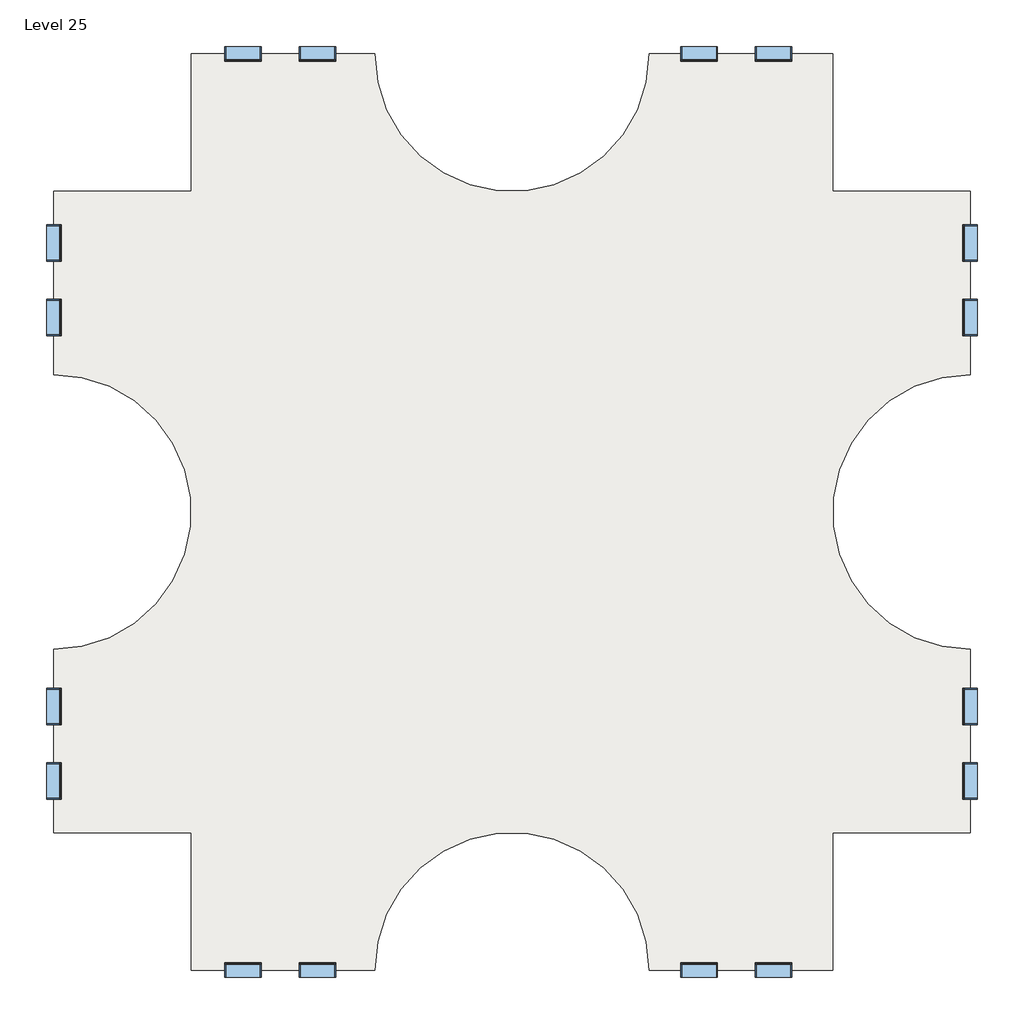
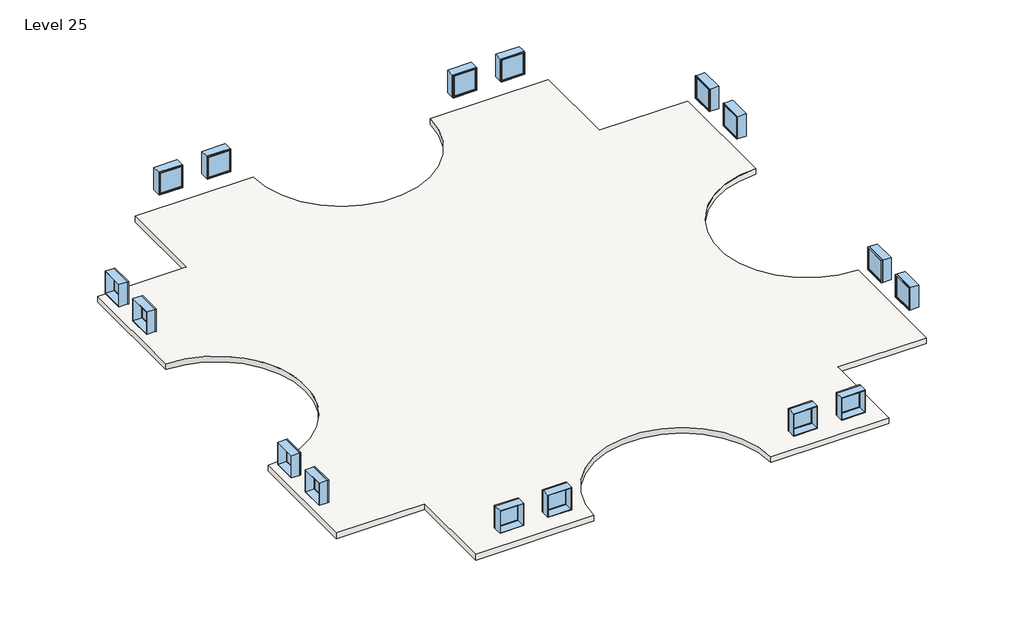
# One storey: 16 windows, 3 slabs.
"""IFC4 building model written with IfcOpenShell, lengths in millimetres."""

import ifcopenshell
import ifcopenshell.guid

model = None  # the IFC model being written
_history = None  # IfcOwnerHistory: only IFC2X3 demands one
_inside = {}  # id of a spatial element -> (the spatial element, [elements in it])
_under = {}  # id of a project, library or spatial element -> (it, [spatial elements below it])
_declared = {}  # id of a project -> (the project, [libraries it declares])
_typed = {}  # id of a type object -> (the type object, [elements of that type])
_made_of = {}  # id of a material, layer set ... -> (it, [elements and type objects made of it])


def new_model(schema):
    """Start an empty IFC model of exactly this schema.

    Asked for "IFC4X3", IfcOpenShell would pick the latest addendum, in which some entities
    have other attributes; the version numbers below select the first issue.
    IFC2X3 requires an IfcOwnerHistory on every rooted entity: one is made here for all.
    """
    global model, _history
    if schema == "IFC4X3":
        model = ifcopenshell.file(schema_version=(4, 3, 0, 0))
    else:
        model = ifcopenshell.file(schema=schema)
    _inside.clear()
    _under.clear()
    _declared.clear()
    _typed.clear()
    _made_of.clear()
    _history = None
    if model.schema == "IFC2X3":
        org = make("IfcOrganization", Name="unknown")
        user = make(
            "IfcPersonAndOrganization",
            ThePerson=make("IfcPerson", FamilyName="unknown"),
            TheOrganization=org,
        )
        app = make(
            "IfcApplication",
            ApplicationDeveloper=org,
            Version="unknown",
            ApplicationFullName="unknown",
            ApplicationIdentifier="unknown",
        )
        _history = make(
            "IfcOwnerHistory",
            OwningUser=user,
            OwningApplication=app,
            ChangeAction="ADDED",
            CreationDate=0,
        )
    return model


def make(cls, **values):
    """One entity of the class cls with the attributes given. An attribute that is None is left unset."""
    return model.create_entity(
        cls, **{name: value for name, value in values.items() if value is not None}
    )


def rooted(cls, **values):
    """An entity with a GlobalId (a new one), such as an element, a storey or a relation."""
    return make(cls, GlobalId=ifcopenshell.guid.new(), OwnerHistory=_history, **values)


def si_unit(unit_type, name, prefix=None):
    """IfcSIUnit, for example si_unit("LENGTHUNIT", "METRE", prefix="MILLI")."""
    return make("IfcSIUnit", UnitType=unit_type, Prefix=prefix, Name=name)


def assignment(units):
    """IfcUnitAssignment: the units of a project."""
    return None if units is None else make("IfcUnitAssignment", Units=units)


def point(xyz):
    """IfcCartesianPoint."""
    return None if xyz is None else make("IfcCartesianPoint", Coordinates=xyz)


def direction(xyz):
    """IfcDirection."""
    return None if xyz is None else make("IfcDirection", DirectionRatios=xyz)


def frame(location, z_axis=None, x_axis=None):
    """IfcAxis2Placement3D, a coordinate frame: its origin and axes. An axis left out is left unset."""
    return make(
        "IfcAxis2Placement3D",
        Location=point(location),
        Axis=direction(z_axis),
        RefDirection=direction(x_axis),
    )


def frame_2d(location, x_axis=None):
    """IfcAxis2Placement2D, a coordinate frame in the plane: its origin and x axis."""
    return make(
        "IfcAxis2Placement2D", Location=point(location), RefDirection=direction(x_axis)
    )


def origin():
    """The frame at (0, 0, 0) with its axes left unset."""
    return frame((0.0, 0.0, 0.0))


def place(relative_to, where):
    """IfcLocalPlacement: puts the frame where relative to a parent placement (None: the world)."""
    return make(
        "IfcLocalPlacement", PlacementRelTo=relative_to, RelativePlacement=where
    )


def context(
    kind, dimensions, precision=None, world=None, true_north=None, identifier=None
):
    """IfcGeometricRepresentationContext, for example the 3D "Model" context."""
    return make(
        "IfcGeometricRepresentationContext",
        ContextIdentifier=identifier,
        ContextType=kind,
        CoordinateSpaceDimension=dimensions,
        Precision=precision,
        WorldCoordinateSystem=world,
        TrueNorth=true_north,
    )


def project(units=None, contexts=None):
    """IfcProject with its units and contexts."""
    return rooted(
        "IfcProject",
        Name="project",
        RepresentationContexts=contexts,
        UnitsInContext=assignment(units),
    )


def spatial(cls, under=None, at=None, **own):
    """A site, building, storey or space (cls), placed at a placement, below another one or the project."""
    s = rooted(cls, ObjectPlacement=at, **own)
    if under is not None:
        _under.setdefault(under.id(), (under, []))[1].append(s)
    return s


def polyline(points):
    """IfcPolyline through the points."""
    return make("IfcPolyline", Points=[point(p) for p in points])


def circle_curve(where, radius):
    """IfcCircle in the frame where."""
    return make("IfcCircle", Position=where, Radius=radius)


def trimmed(basis, trim1, trim2, sense, master):
    """IfcTrimmedCurve: the piece of a basis curve between two trims."""
    return make(
        "IfcTrimmedCurve",
        BasisCurve=basis,
        Trim1=trim1,
        Trim2=trim2,
        SenseAgreement=sense,
        MasterRepresentation=master,
    )


def segment(curve, same_sense, transition):
    """IfcCompositeCurveSegment."""
    return make(
        "IfcCompositeCurveSegment",
        Transition=transition,
        SameSense=same_sense,
        ParentCurve=curve,
    )


def composite_curve(segments, self_intersect=None):
    """IfcCompositeCurve: segments joined end to end."""
    return make("IfcCompositeCurve", Segments=segments, SelfIntersect=self_intersect)


def outline(outer, holes=None, kind="AREA"):
    """IfcArbitraryClosedProfileDef: a profile drawn as a closed curve; with holes, ...WithVoids."""
    if holes is None:
        return make("IfcArbitraryClosedProfileDef", ProfileType=kind, OuterCurve=outer)
    return make(
        "IfcArbitraryProfileDefWithVoids",
        ProfileType=kind,
        OuterCurve=outer,
        InnerCurves=holes,
    )


def extrude(swept, where, along, depth):
    """IfcExtrudedAreaSolid: the profile swept, set in the frame where, extruded along a direction by depth."""
    return make(
        "IfcExtrudedAreaSolid",
        SweptArea=swept,
        Position=where,
        ExtrudedDirection=direction(along),
        Depth=depth,
    )


def shape(context_of_items, identifier, shape_type, items):
    """IfcShapeRepresentation: the items that make up one representation, for example the "Body"."""
    return make(
        "IfcShapeRepresentation",
        ContextOfItems=context_of_items,
        RepresentationIdentifier=identifier,
        RepresentationType=shape_type,
        Items=items,
    )


def source(mapping_origin, context_of_items, identifier, shape_type, items):
    """IfcRepresentationMap: a shape defined once, which mapped items show again and again."""
    return make(
        "IfcRepresentationMap",
        MappingOrigin=mapping_origin,
        MappedRepresentation=shape(context_of_items, identifier, shape_type, items),
    )


def transform(
    local_origin,
    x_axis=None,
    y_axis=None,
    z_axis=None,
    scale=None,
    scale2=None,
    scale3=None,
    uniform=True,
):
    """IfcCartesianTransformationOperator3D, or its non-uniform kind. x_axis, y_axis, z_axis: its Axis1, 2, 3."""
    if uniform:
        return make(
            "IfcCartesianTransformationOperator3D",
            Axis1=direction(x_axis),
            Axis2=direction(y_axis),
            LocalOrigin=point(local_origin),
            Scale=scale,
            Axis3=direction(z_axis),
        )
    return make(
        "IfcCartesianTransformationOperator3DnonUniform",
        Axis1=direction(x_axis),
        Axis2=direction(y_axis),
        LocalOrigin=point(local_origin),
        Scale=scale,
        Axis3=direction(z_axis),
        Scale2=scale2,
        Scale3=scale3,
    )


def mapped(mapping_source, mapping_target):
    """IfcMappedItem: shows the shape of a source again, moved by a transform."""
    return make(
        "IfcMappedItem", MappingSource=mapping_source, MappingTarget=mapping_target
    )


def made_of(thing, what):
    """Note that an element or type object is made of a material, layer set ...; save() writes the relation."""
    if what is not None:
        _made_of.setdefault(what.id(), (what, []))[1].append(thing)
    return thing


def element(
    cls,
    number,
    at=None,
    inside=None,
    cuts=None,
    type_object=None,
    material=None,
    context=None,
    identifier="Body",
    shape_type=None,
    held_by="IfcProductDefinitionShape",
    body=None,
    shapes=None,
    **own,
):
    """One element of the class cls, such as IfcWall. Its Tag is "e" and its number.

    at: its placement. inside: the storey or other place that contains it. cuts: it is an
    opening in that element (IfcRelVoidsElement). A single representation is given by context,
    identifier, shape_type and body (its items); several are given by shapes. held_by: the class
    of the entity that holds the representations. save() writes the other relations.
    """
    e = rooted(cls, Tag="e%d" % number, ObjectPlacement=at, **own)
    if body is not None:
        shapes = [shape(context, identifier, shape_type, body)]
    if shapes is not None:
        e.Representation = make(held_by, Representations=shapes)
    if inside is not None:
        _inside.setdefault(inside.id(), (inside, []))[1].append(e)
    if cuts is not None:
        rooted(
            "IfcRelVoidsElement", RelatingBuildingElement=cuts, RelatedOpeningElement=e
        )
    if type_object is not None:
        _typed.setdefault(type_object.id(), (type_object, []))[1].append(e)
    return made_of(e, material)


def aggregate(whole, parts):
    """IfcRelAggregates: a whole, such as a stair, and the parts it consists of."""
    return rooted("IfcRelAggregates", RelatingObject=whole, RelatedObjects=parts)


def save(model, path):
    """Write the relations noted so far, then the file.

    IfcRelAggregates (storeys below a building ...), IfcRelContainedInSpatialStructure (elements
    in a storey), IfcRelDefinesByType, IfcRelAssociatesMaterial and IfcRelDeclares: one each for
    every whole, place, type object, material and project.
    """
    for whole, parts in _under.values():
        aggregate(whole, parts)
    for where, things in _inside.values():
        rooted(
            "IfcRelContainedInSpatialStructure",
            RelatedElements=things,
            RelatingStructure=where,
        )
    for kind, things in _typed.values():
        rooted("IfcRelDefinesByType", RelatedObjects=things, RelatingType=kind)
    for what, things in _made_of.values():
        rooted("IfcRelAssociatesMaterial", RelatedObjects=things, RelatingMaterial=what)
    for by, libraries in _declared.values():
        rooted("IfcRelDeclares", RelatingContext=by, RelatedDefinitions=libraries)
    model.write(path)


def window_d0035ecf(model_context):
    return source(origin(), model_context, "Body", "SweptSolid", [
        extrude(outline(polyline([(508.0, 200.025), (-584.2, 200.025), (-584.2, 212.725), (508.0, 212.725), (508.0, 200.025)])), frame((0.0, 0.0, 977.9), z_axis=(0.0, 0.0, 1.0), x_axis=(1.0, 0.0, 0.0)), (0.0, 0.0, 1.0), 1092.2),
        extrude(outline(polyline([(2114.55, -628.65), (933.45, -628.65), (933.45, 552.45), (2114.55, 552.45), (2114.55, -628.65)]), holes=[polyline([(2070.1, -584.2), (2070.1, 508.0), (977.9, 508.0), (977.9, -584.2), (2070.1, -584.2)])]), frame((0.0, 184.15, 0.0), z_axis=(0.0, 1.0, 0.0), x_axis=(0.0, 0.0, 1.0)), (0.0, 0.0, 1.0), 44.45),
        extrude(outline(polyline([(2133.6, -647.7), (914.4, -647.7), (914.4, 571.5), (2133.6, 571.5), (2133.6, -647.7)]), holes=[polyline([(2101.85, -615.95), (2101.85, 539.75), (946.15, 539.75), (946.15, -615.95), (2101.85, -615.95)])]), frame((0.0, -247.65, 0.0), z_axis=(0.0, 1.0, 0.0), x_axis=(0.0, 0.0, 1.0)), (0.0, 0.0, 1.0), 431.8),
        extrude(outline(polyline([(2133.6, 571.5), (2133.6, -647.7), (914.4, -647.7), (914.4, 571.5), (2133.6, 571.5)]), holes=[polyline([(2114.55, 552.45), (933.45, 552.45), (933.45, -628.65), (2114.55, -628.65), (2114.55, 552.45)])]), frame((0.0, 184.15, 0.0), z_axis=(0.0, 1.0, 0.0), x_axis=(0.0, 0.0, 1.0)), (0.0, 0.0, 1.0), 63.5),
    ])


def window_d434eb62(model_context):
    return source(origin(), model_context, "Body", "SweptSolid", [
        extrude(outline(polyline([(508.0, -200.025), (508.0, -212.725), (-584.2, -212.725), (-584.2, -200.025), (508.0, -200.025)])), frame((0.0, 0.0, 977.9), z_axis=(0.0, 0.0, 1.0), x_axis=(1.0, 0.0, 0.0)), (0.0, 0.0, 1.0), 1092.2),
        extrude(outline(polyline([(2114.55, -628.65), (933.45, -628.65), (933.45, 552.45), (2114.55, 552.45), (2114.55, -628.65)]), holes=[polyline([(2070.1, -584.2), (2070.1, 508.0), (977.9, 508.0), (977.9, -584.2), (2070.1, -584.2)])]), frame((0.0, -228.6, 0.0), z_axis=(0.0, 1.0, 0.0), x_axis=(0.0, 0.0, 1.0)), (0.0, 0.0, 1.0), 44.45),
        extrude(outline(polyline([(2133.6, -647.7), (914.4, -647.7), (914.4, 571.5), (2133.6, 571.5), (2133.6, -647.7)]), holes=[polyline([(2101.85, -615.95), (2101.85, 539.75), (946.15, 539.75), (946.15, -615.95), (2101.85, -615.95)])]), frame((0.0, -184.15, 0.0), z_axis=(0.0, 1.0, 0.0), x_axis=(0.0, 0.0, 1.0)), (0.0, 0.0, 1.0), 431.8),
        extrude(outline(polyline([(2133.6, 571.5), (2133.6, -647.7), (914.4, -647.7), (914.4, 571.5), (2133.6, 571.5)]), holes=[polyline([(2114.55, 552.45), (933.45, 552.45), (933.45, -628.65), (2114.55, -628.65), (2114.55, 552.45)])]), frame((0.0, -247.65, 0.0), z_axis=(0.0, 1.0, 0.0), x_axis=(0.0, 0.0, 1.0)), (0.0, 0.0, 1.0), 63.5),
    ])


model = new_model("IFC4")

# Units and contexts
model_context = context("Model", 3, world=origin())
ifc_project = project(units=[si_unit("LENGTHUNIT", "METRE", prefix="MILLI")], contexts=[model_context])

# Site, building, storey
site = spatial("IfcSite", under=ifc_project)
building = spatial("IfcBuilding", under=site)
storey = spatial("IfcBuildingStorey", under=building, Name="Level 25", Elevation=73152.0)

# Slabs
placement = place(None, origin())
element("IfcSlab", 1, ObjectType="Generic - 12\"", at=placement, inside=storey, context=model_context, shape_type="SweptSolid", body=[
    extrude(outline(composite_curve([segment(polyline([(-7150.3629456, 4479.6634547), (-7150.3629456, 9051.6634547), (-1054.3629456, 9051.6634547)]), True, "CONTINUOUS"), segment(trimmed(circle_curve(frame_2d((3517.6370544, 9051.6634547)), 4572.0), [point((-1054.3629456, 9051.6634547))], [point((8089.6370544, 9051.6634547))], True, "CARTESIAN"), True, "CONTINUOUS"), segment(polyline([(8089.6370544, 9051.6634547), (14185.6370544, 9051.6634547), (14185.6370544, 4479.6634547), (18757.6370544, 4479.6634547), (18757.6370544, -1616.3365453)]), True, "CONTINUOUS"), segment(trimmed(circle_curve(frame_2d((18757.6370544, -6188.3365453)), 4572.0), [point((18757.6370544, -1616.3365453))], [point((18757.6370544, -10760.3365453))], True, "CARTESIAN"), True, "CONTINUOUS"), segment(polyline([(18757.6370544, -10760.3365453), (18757.6370544, -16856.3365453), (14185.6370544, -16856.3365453), (14185.6370544, -21428.3365453), (8089.6370544, -21428.3365453)]), True, "CONTINUOUS"), segment(trimmed(circle_curve(frame_2d((3517.6370544, -21428.3365453)), 4572.0), [point((8089.6370544, -21428.3365453))], [point((-1054.3629456, -21428.3365453))], True, "CARTESIAN"), True, "CONTINUOUS"), segment(polyline([(-1054.3629456, -21428.3365453), (-7150.3629456, -21428.3365453), (-7150.3629456, -16856.3365453), (-11722.3629456, -16856.3365453), (-11722.3629456, -10760.3365453)]), True, "CONTINUOUS"), segment(trimmed(circle_curve(frame_2d((-11722.3629456, -6188.3365453)), 4572.0), [point((-11722.3629456, -10760.3365453))], [point((-11722.3629456, -1616.3365453))], True, "CARTESIAN"), True, "CONTINUOUS"), segment(polyline([(-11722.3629456, -1616.3365453), (-11722.3629456, 4479.6634547), (-7150.3629456, 4479.6634547)]), True, "CONTINUOUS")], self_intersect=False)), frame((0.0, 0.0, 72847.2), z_axis=(0.0, 0.0, 1.0), x_axis=(1.0, 0.0, 0.0)), (0.0, 0.0, 1.0), 304.8),
])
element("IfcSlab", 2, ObjectType="Generic - 12\"", at=placement, inside=storey, context=model_context, shape_type="SweptSolid", body=[
    extrude(outline(composite_curve([segment(polyline([(-7150.3629456, 4479.6634547), (-7150.3629456, 9051.6634547), (-1054.3629456, 9051.6634547)]), True, "CONTINUOUS"), segment(trimmed(circle_curve(frame_2d((3517.6370544, 9051.6634547)), 4572.0), [point((-1054.3629456, 9051.6634547))], [point((8089.6370544, 9051.6634547))], True, "CARTESIAN"), True, "CONTINUOUS"), segment(polyline([(8089.6370544, 9051.6634547), (14185.6370544, 9051.6634547), (14185.6370544, 4479.6634547), (18757.6370544, 4479.6634547), (18757.6370544, -1616.3365453)]), True, "CONTINUOUS"), segment(trimmed(circle_curve(frame_2d((18757.6370544, -6188.3365453)), 4572.0), [point((18757.6370544, -1616.3365453))], [point((18757.6370544, -10760.3365453))], True, "CARTESIAN"), True, "CONTINUOUS"), segment(polyline([(18757.6370544, -10760.3365453), (18757.6370544, -16856.3365453), (14185.6370544, -16856.3365453), (14185.6370544, -21428.3365453), (8089.6370544, -21428.3365453)]), True, "CONTINUOUS"), segment(trimmed(circle_curve(frame_2d((3517.6370544, -21428.3365453)), 4572.0), [point((8089.6370544, -21428.3365453))], [point((-1054.3629456, -21428.3365453))], True, "CARTESIAN"), True, "CONTINUOUS"), segment(polyline([(-1054.3629456, -21428.3365453), (-7150.3629456, -21428.3365453), (-7150.3629456, -16856.3365453), (-11722.3629456, -16856.3365453), (-11722.3629456, -10760.3365453)]), True, "CONTINUOUS"), segment(trimmed(circle_curve(frame_2d((-11722.3629456, -6188.3365453)), 4572.0), [point((-11722.3629456, -10760.3365453))], [point((-11722.3629456, -1616.3365453))], True, "CARTESIAN"), True, "CONTINUOUS"), segment(polyline([(-11722.3629456, -1616.3365453), (-11722.3629456, 4479.6634547), (-7150.3629456, 4479.6634547)]), True, "CONTINUOUS")], self_intersect=False)), frame((0.0, 0.0, 72847.2), z_axis=(0.0, 0.0, 1.0), x_axis=(1.0, 0.0, 0.0)), (0.0, 0.0, 1.0), 304.8),
])
element("IfcSlab", 3, ObjectType="Generic - 12\"", at=placement, inside=storey, context=model_context, shape_type="SweptSolid", body=[
    extrude(outline(composite_curve([segment(polyline([(-7150.3629456, 4479.6634547), (-7150.3629456, 9051.6634547), (-1054.3629456, 9051.6634547)]), True, "CONTINUOUS"), segment(trimmed(circle_curve(frame_2d((3517.6370544, 9051.6634547)), 4572.0), [point((-1054.3629456, 9051.6634547))], [point((8089.6370544, 9051.6634547))], True, "CARTESIAN"), True, "CONTINUOUS"), segment(polyline([(8089.6370544, 9051.6634547), (14185.6370544, 9051.6634547), (14185.6370544, 4479.6634547), (18757.6370544, 4479.6634547), (18757.6370544, -1616.3365453)]), True, "CONTINUOUS"), segment(trimmed(circle_curve(frame_2d((18757.6370544, -6188.3365453)), 4572.0), [point((18757.6370544, -1616.3365453))], [point((18757.6370544, -10760.3365453))], True, "CARTESIAN"), True, "CONTINUOUS"), segment(polyline([(18757.6370544, -10760.3365453), (18757.6370544, -16856.3365453), (14185.6370544, -16856.3365453), (14185.6370544, -21428.3365453), (8089.6370544, -21428.3365453)]), True, "CONTINUOUS"), segment(trimmed(circle_curve(frame_2d((3517.6370544, -21428.3365453)), 4572.0), [point((8089.6370544, -21428.3365453))], [point((-1054.3629456, -21428.3365453))], True, "CARTESIAN"), True, "CONTINUOUS"), segment(polyline([(-1054.3629456, -21428.3365453), (-7150.3629456, -21428.3365453), (-7150.3629456, -16856.3365453), (-11722.3629456, -16856.3365453), (-11722.3629456, -10760.3365453)]), True, "CONTINUOUS"), segment(trimmed(circle_curve(frame_2d((-11722.3629456, -6188.3365453)), 4572.0), [point((-11722.3629456, -10760.3365453))], [point((-11722.3629456, -1616.3365453))], True, "CARTESIAN"), True, "CONTINUOUS"), segment(polyline([(-11722.3629456, -1616.3365453), (-11722.3629456, 4479.6634547), (-7150.3629456, 4479.6634547)]), True, "CONTINUOUS")], self_intersect=False)), frame((0.0, 0.0, 72847.2), z_axis=(0.0, 0.0, 1.0), x_axis=(1.0, 0.0, 0.0)), (0.0, 0.0, 1.0), 304.8),
])

# Windows
window_shape = window_d0035ecf(model_context)
element("IfcWindow", 4, ObjectType="Fixed : 48\" x 48\"", at=placement, inside=storey, context=model_context, shape_type="MappedRepresentation", body=[
    mapped(window_shape, transform((-11719.1879456, 247.3884547, 73152.0), x_axis=(0.0, -1.0, 0.0), y_axis=(1.0, 0.0, 0.0), z_axis=(0.0, 0.0, 1.0))),
])
element("IfcWindow", 5, ObjectType="Fixed : 48\" x 48\"", at=placement, inside=storey, context=model_context, shape_type="MappedRepresentation", body=[
    mapped(window_shape, transform((-5469.1993281, 9048.4884547, 73152.0), x_axis=(-1.0, 0.0, 0.0), y_axis=(0.0, -1.0, 0.0), z_axis=(0.0, 0.0, 1.0))),
])
element("IfcWindow", 6, ObjectType="Fixed : 48\" x 48\"", at=placement, inside=storey, context=model_context, shape_type="MappedRepresentation", body=[
    mapped(window_shape, transform((-11719.1879456, -15175.1729277, 73152.0), x_axis=(0.0, -1.0, 0.0), y_axis=(1.0, 0.0, 0.0), z_axis=(0.0, 0.0, 1.0))),
])
element("IfcWindow", 7, ObjectType="Fixed : 48\" x 48\"", at=placement, inside=storey, context=model_context, shape_type="MappedRepresentation", body=[
    mapped(window_shape, transform((-2918.0879456, -21425.1615453, 73152.0), x_axis=(1.0, 0.0, 0.0), y_axis=(0.0, 1.0, 0.0), z_axis=(0.0, 0.0, 1.0))),
])
element("IfcWindow", 8, ObjectType="Fixed : 48\" x 48\"", at=placement, inside=storey, context=model_context, shape_type="MappedRepresentation", body=[
    mapped(window_shape, transform((18754.4620544, 2798.4998372, 73152.0), x_axis=(0.0, 1.0, 0.0), y_axis=(-1.0, 0.0, 0.0), z_axis=(0.0, 0.0, 1.0))),
])
element("IfcWindow", 9, ObjectType="Fixed : 48\" x 48\"", at=placement, inside=storey, context=model_context, shape_type="MappedRepresentation", body=[
    mapped(window_shape, transform((9705.7120544, 9048.4884547, 73152.0), x_axis=(-1.0, 0.0, 0.0), y_axis=(0.0, -1.0, 0.0), z_axis=(0.0, 0.0, 1.0))),
])
element("IfcWindow", 10, ObjectType="Fixed : 48\" x 48\"", at=placement, inside=storey, context=model_context, shape_type="MappedRepresentation", body=[
    mapped(window_shape, transform((18754.4620544, -12624.0615453, 73152.0), x_axis=(0.0, 1.0, 0.0), y_axis=(-1.0, 0.0, 0.0), z_axis=(0.0, 0.0, 1.0))),
])
element("IfcWindow", 11, ObjectType="Fixed : 48\" x 48\"", at=placement, inside=storey, context=model_context, shape_type="MappedRepresentation", body=[
    mapped(window_shape, transform((12256.8234368, -21425.1615453, 73152.0), x_axis=(1.0, 0.0, 0.0), y_axis=(0.0, 1.0, 0.0), z_axis=(0.0, 0.0, 1.0))),
])
window_2_shape = window_d434eb62(model_context)
element("IfcWindow", 12, ObjectType="Fixed : 48\" x 48\"", at=placement, inside=storey, context=model_context, shape_type="MappedRepresentation", body=[
    mapped(window_2_shape, transform((-11719.1879456, 2798.4998372, 73152.0), x_axis=(0.0, 1.0, 0.0), y_axis=(-1.0, 0.0, 0.0), z_axis=(0.0, 0.0, 1.0))),
])
element("IfcWindow", 13, ObjectType="Fixed : 48\" x 48\"", at=placement, inside=storey, context=model_context, shape_type="MappedRepresentation", body=[
    mapped(window_2_shape, transform((-2918.0879456, 9048.4884547, 73152.0), x_axis=(1.0, 0.0, 0.0), y_axis=(0.0, 1.0, 0.0), z_axis=(0.0, 0.0, 1.0))),
])
element("IfcWindow", 14, ObjectType="Fixed : 48\" x 48\"", at=placement, inside=storey, context=model_context, shape_type="MappedRepresentation", body=[
    mapped(window_2_shape, transform((-11719.1879456, -12624.0615453, 73152.0), x_axis=(0.0, 1.0, 0.0), y_axis=(-1.0, 0.0, 0.0), z_axis=(0.0, 0.0, 1.0))),
])
element("IfcWindow", 15, ObjectType="Fixed : 48\" x 48\"", at=placement, inside=storey, context=model_context, shape_type="MappedRepresentation", body=[
    mapped(window_2_shape, transform((-5469.1993281, -21425.1615453, 73152.0), x_axis=(-1.0, 0.0, 0.0), y_axis=(0.0, -1.0, 0.0), z_axis=(0.0, 0.0, 1.0))),
])
element("IfcWindow", 16, ObjectType="Fixed : 48\" x 48\"", at=placement, inside=storey, context=model_context, shape_type="MappedRepresentation", body=[
    mapped(window_2_shape, transform((18754.4620544, 247.3884547, 73152.0), x_axis=(0.0, -1.0, 0.0), y_axis=(1.0, 0.0, 0.0), z_axis=(0.0, 0.0, 1.0))),
])
element("IfcWindow", 17, ObjectType="Fixed : 48\" x 48\"", at=placement, inside=storey, context=model_context, shape_type="MappedRepresentation", body=[
    mapped(window_2_shape, transform((12256.8234368, 9048.4884547, 73152.0), x_axis=(1.0, 0.0, 0.0), y_axis=(0.0, 1.0, 0.0), z_axis=(0.0, 0.0, 1.0))),
])
element("IfcWindow", 18, ObjectType="Fixed : 48\" x 48\"", at=placement, inside=storey, context=model_context, shape_type="MappedRepresentation", body=[
    mapped(window_2_shape, transform((18754.4620544, -15175.1729277, 73152.0), x_axis=(0.0, -1.0, 0.0), y_axis=(1.0, 0.0, 0.0), z_axis=(0.0, 0.0, 1.0))),
])
element("IfcWindow", 19, ObjectType="Fixed : 48\" x 48\"", at=placement, inside=storey, context=model_context, shape_type="MappedRepresentation", body=[
    mapped(window_2_shape, transform((9705.7120544, -21425.1615453, 73152.0), x_axis=(-1.0, 0.0, 0.0), y_axis=(0.0, -1.0, 0.0), z_axis=(0.0, 0.0, 1.0))),
])

save(model, "model.ifc")
